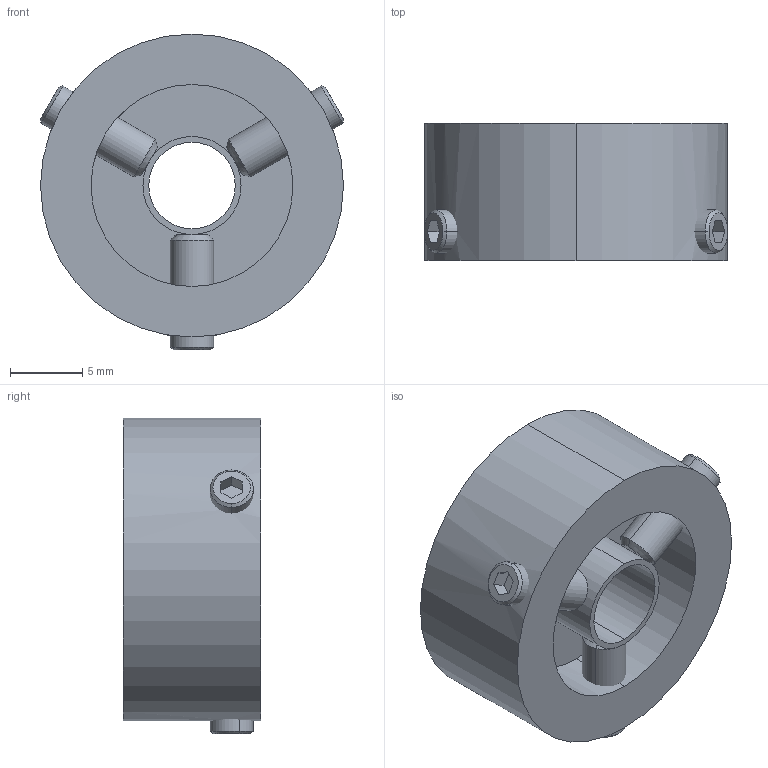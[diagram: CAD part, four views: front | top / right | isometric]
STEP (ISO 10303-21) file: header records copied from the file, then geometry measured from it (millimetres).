
FILE_DESCRIPTION (( 'STEP AP203' ), '1' );
FILE_NAME ('MN01137.STEP', '2017-08-09T10:53:43', ( '' ), ( '' ), 'SwSTEP 2.0', 'SolidWorks 2016', '' );
FILE_SCHEMA (( 'CONFIG_CONTROL_DESIGN' ));
Length unit declared in the file: millimetre
Products named in the file (4): MN01137; Orbis_nosilec_magneta_os_fi6; navojni_zatic_M3x8_DIN913; Magnet_D19-d12-w3
Assembly tree (5 placements, depth 2):
  MN01137
    Orbis_nosilec_magneta_os_fi6
    Magnet_D19-d12-w3
    navojni_zatic_M3x8_DIN913  x3
Bounding box: 21.05 x 9.5 x 21.9 mm (x, y, z)
Volume: 2553.1 mm3; surface area: 2984.5 mm2
Topology: 5 solids, 5 shells, 83 faces, 184 edges, 116 vertices
Faces by surface type: plane 35, cylinder 28, cone 12, torus 8
Entity records: 2196 total; most frequent: CARTESIAN_POINT 493, DIRECTION 282, ORIENTED_EDGE 240, EDGE_CURVE 120, AXIS2_PLACEMENT_3D 117, VERTEX_POINT 76, EDGE_LOOP 66, CIRCLE 56
